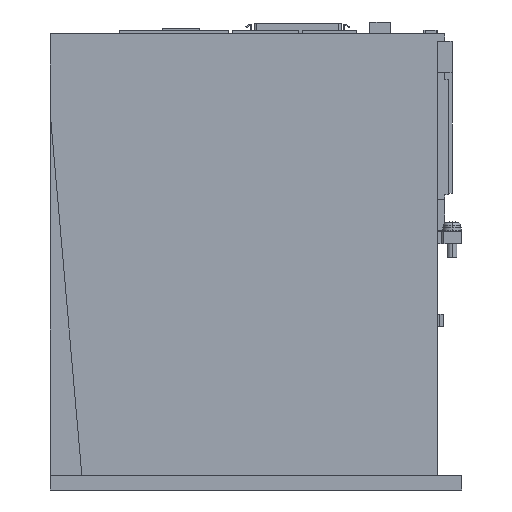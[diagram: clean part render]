
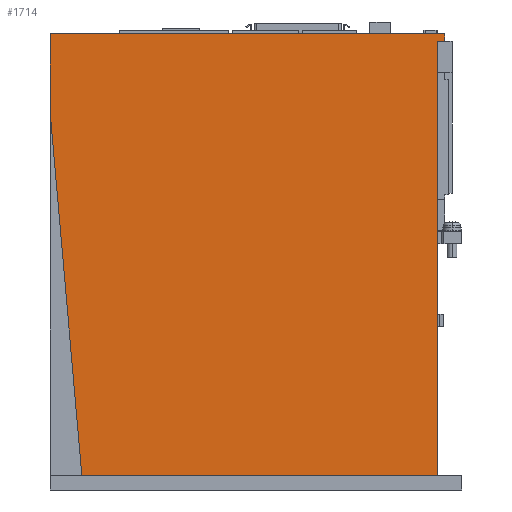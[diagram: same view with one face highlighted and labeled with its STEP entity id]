
A CAD part, left-side view. The second image highlights one B-rep face of the part: STEP entity #1714.
In plain terms, the highlighted planar face has unit normal (-1, 0, 0).
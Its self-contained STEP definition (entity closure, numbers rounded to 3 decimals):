
#22=DIRECTION('',(0.,-1.,0.));
#23=VECTOR('',#22,145.052);
#24=CARTESIAN_POINT('',(-30.,71.052,0.));
#25=LINE('',#24,#23);
#118=DIRECTION('',(0.,-1.,0.));
#119=VECTOR('',#118,3.);
#120=CARTESIAN_POINT('',(-30.,-74.,177.));
#121=LINE('',#120,#119);
#122=DIRECTION('',(0.,0.,1.));
#123=VECTOR('',#122,177.);
#124=CARTESIAN_POINT('',(-30.,-74.,0.));
#125=LINE('',#124,#123);
#126=DIRECTION('',(0.,0.087,0.996));
#127=VECTOR('',#126,148.565);
#128=CARTESIAN_POINT('',(-30.,71.052,0.));
#129=LINE('',#128,#127);
#142=DIRECTION('',(0.,0.,-1.));
#143=VECTOR('',#142,32.2);
#144=CARTESIAN_POINT('',(-30.,84.,180.2));
#145=LINE('',#144,#143);
#566=DIRECTION('',(0.,-1.,0.));
#567=VECTOR('',#566,161.);
#568=CARTESIAN_POINT('',(-30.,84.,180.2));
#569=LINE('',#568,#567);
#604=DIRECTION('',(0.,0.,1.));
#605=VECTOR('',#604,3.2);
#606=CARTESIAN_POINT('',(-30.,-77.,177.));
#607=LINE('',#606,#605);
#1196=CARTESIAN_POINT('',(-30.,71.052,0.));
#1197=VERTEX_POINT('',#1196);
#1198=CARTESIAN_POINT('',(-30.,84.,148.));
#1199=VERTEX_POINT('',#1198);
#1204=CARTESIAN_POINT('',(-30.,-74.,0.));
#1206=VERTEX_POINT('',#1204);
#1262=CARTESIAN_POINT('',(-30.,-74.,177.));
#1263=VERTEX_POINT('',#1262);
#1264=CARTESIAN_POINT('',(-30.,-77.,177.));
#1265=VERTEX_POINT('',#1264);
#1330=CARTESIAN_POINT('',(-30.,84.,180.2));
#1331=CARTESIAN_POINT('',(-30.,-77.,180.2));
#1332=VERTEX_POINT('',#1330);
#1333=VERTEX_POINT('',#1331);
#1696=CARTESIAN_POINT('',(-30.,84.,0.));
#1697=DIRECTION('',(-1.,0.,0.));
#1698=DIRECTION('',(0.,-1.,0.));
#1699=AXIS2_PLACEMENT_3D('',#1696,#1697,#1698);
#1700=PLANE('',#1699);
#1702=ORIENTED_EDGE('',*,*,#1701,.F.);
#1704=ORIENTED_EDGE('',*,*,#1703,.T.);
#1706=ORIENTED_EDGE('',*,*,#1705,.F.);
#1707=ORIENTED_EDGE('',*,*,#1689,.F.);
#1708=ORIENTED_EDGE('',*,*,#1648,.F.);
#1709=ORIENTED_EDGE('',*,*,#1601,.F.);
#1711=ORIENTED_EDGE('',*,*,#1710,.T.);
#1712=EDGE_LOOP('',(#1702,#1704,#1706,#1707,#1708,#1709,#1711));
#1713=FACE_OUTER_BOUND('',#1712,.F.);
#1714=ADVANCED_FACE('',(#1713),#1700,.T.);
#1601=EDGE_CURVE('',#1197,#1206,#25,.T.);
#1648=EDGE_CURVE('',#1206,#1263,#125,.T.);
#1689=EDGE_CURVE('',#1263,#1265,#121,.T.);
#1701=EDGE_CURVE('',#1332,#1199,#145,.T.);
#1703=EDGE_CURVE('',#1332,#1333,#569,.T.);
#1705=EDGE_CURVE('',#1265,#1333,#607,.T.);
#1710=EDGE_CURVE('',#1197,#1199,#129,.T.);
